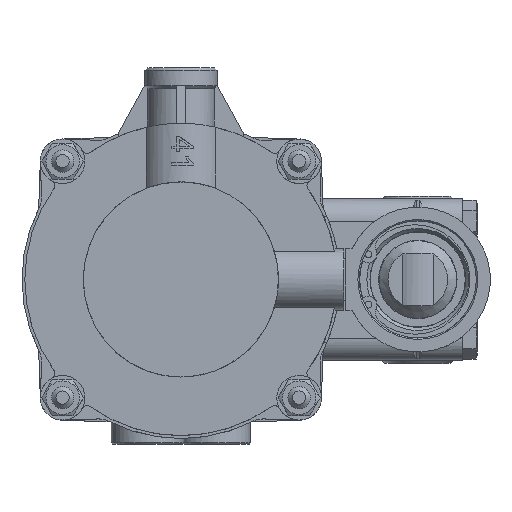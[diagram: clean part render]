
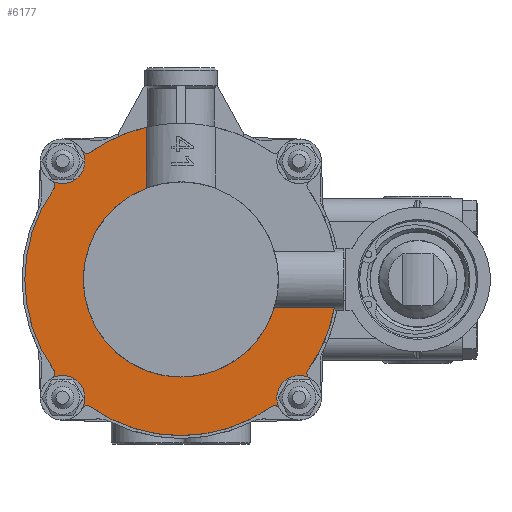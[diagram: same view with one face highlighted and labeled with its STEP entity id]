
A CAD part, top view. The second image highlights one B-rep face of the part: STEP entity #6177.
In plain terms, the highlighted planar face has unit normal (0, 0, 1).
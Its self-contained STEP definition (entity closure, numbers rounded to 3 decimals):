
#4979=FACE_OUTER_BOUND('',#12112,.T.);
#6177=ADVANCED_FACE('',(#4979),#7158,.T.);
#7158=PLANE('',#26941);
#8353=LINE('',#45593,#9732);
#8451=LINE('',#46138,#9830);
#9732=VECTOR('',#31505,1.);
#9830=VECTOR('',#32001,1.);
#12112=EDGE_LOOP('',(#17456,#17457,#17458,#17459,#17460,#17461,#17462,#17463,
#17464,#17465,#17466,#17467,#17468,#17469,#17470,#17471,#17472,#17473));
#17456=ORIENTED_EDGE('',*,*,#23724,.T.);
#17457=ORIENTED_EDGE('',*,*,#23704,.T.);
#17458=ORIENTED_EDGE('',*,*,#23599,.T.);
#17459=ORIENTED_EDGE('',*,*,#23624,.T.);
#17460=ORIENTED_EDGE('',*,*,#23603,.F.);
#17461=ORIENTED_EDGE('',*,*,#23596,.T.);
#17462=ORIENTED_EDGE('',*,*,#23710,.T.);
#17463=ORIENTED_EDGE('',*,*,#23590,.T.);
#17464=ORIENTED_EDGE('',*,*,#23661,.T.);
#17465=ORIENTED_EDGE('',*,*,#23584,.T.);
#17466=ORIENTED_EDGE('',*,*,#23697,.T.);
#17467=ORIENTED_EDGE('',*,*,#23582,.T.);
#17468=ORIENTED_EDGE('',*,*,#23611,.F.);
#17469=ORIENTED_EDGE('',*,*,#23650,.T.);
#17470=ORIENTED_EDGE('',*,*,#23575,.T.);
#17471=ORIENTED_EDGE('',*,*,#23698,.T.);
#17472=ORIENTED_EDGE('',*,*,#23492,.T.);
#17473=ORIENTED_EDGE('',*,*,#23720,.F.);
#20626=VERTEX_POINT('',#45592);
#20627=VERTEX_POINT('',#45594);
#20688=VERTEX_POINT('',#45791);
#20689=VERTEX_POINT('',#45792);
#20695=VERTEX_POINT('',#45805);
#20696=VERTEX_POINT('',#45807);
#20697=VERTEX_POINT('',#45811);
#20698=VERTEX_POINT('',#45812);
#20703=VERTEX_POINT('',#45823);
#20704=VERTEX_POINT('',#45825);
#20706=VERTEX_POINT('',#45830);
#20709=VERTEX_POINT('',#45836);
#20712=VERTEX_POINT('',#45843);
#20713=VERTEX_POINT('',#45845);
#20714=VERTEX_POINT('',#45849);
#20716=VERTEX_POINT('',#45864);
#20753=VERTEX_POINT('',#46063);
#20755=VERTEX_POINT('',#46122);
#23492=EDGE_CURVE('',#20627,#20626,#8353,.T.);
#23575=EDGE_CURVE('',#20688,#20689,#24955,.T.);
#23582=EDGE_CURVE('',#20696,#20695,#24959,.T.);
#23584=EDGE_CURVE('',#20697,#20698,#24960,.T.);
#23590=EDGE_CURVE('',#20704,#20703,#24963,.T.);
#23596=EDGE_CURVE('',#20706,#20709,#24966,.T.);
#23599=EDGE_CURVE('',#20713,#20712,#24968,.T.);
#23603=EDGE_CURVE('',#20706,#20714,#24971,.T.);
#23611=EDGE_CURVE('',#20716,#20695,#24979,.T.);
#23624=EDGE_CURVE('',#20712,#20714,#24982,.T.);
#23650=EDGE_CURVE('',#20716,#20688,#24993,.T.);
#23661=EDGE_CURVE('',#20703,#20697,#24996,.T.);
#23697=EDGE_CURVE('',#20698,#20696,#25023,.T.);
#23698=EDGE_CURVE('',#20689,#20627,#25024,.T.);
#23704=EDGE_CURVE('',#20753,#20713,#25030,.T.);
#23710=EDGE_CURVE('',#20709,#20704,#25033,.T.);
#23720=EDGE_CURVE('',#20755,#20626,#25041,.T.);
#23724=EDGE_CURVE('',#20755,#20753,#8451,.T.);
#24955=CIRCLE('',#26790,2.);
#24959=CIRCLE('',#26795,2.);
#24960=CIRCLE('',#26797,2.);
#24963=CIRCLE('',#26801,2.);
#24966=CIRCLE('',#26805,2.);
#24968=CIRCLE('',#26808,2.);
#24971=CIRCLE('',#26813,8.);
#24979=CIRCLE('',#26828,8.);
#24982=CIRCLE('',#26836,8.);
#24993=CIRCLE('',#26855,8.);
#24996=CIRCLE('',#26863,8.);
#25023=CIRCLE('',#26904,56.);
#25024=CIRCLE('',#26906,56.);
#25030=CIRCLE('',#26915,56.);
#25033=CIRCLE('',#26919,56.);
#25041=CIRCLE('',#26938,35.);
#26790=AXIS2_PLACEMENT_3D('',#45790,#31653,#31654);
#26795=AXIS2_PLACEMENT_3D('',#45806,#31666,#31667);
#26797=AXIS2_PLACEMENT_3D('',#45810,#31671,#31672);
#26801=AXIS2_PLACEMENT_3D('',#45824,#31682,#31683);
#26805=AXIS2_PLACEMENT_3D('',#45837,#31693,#31694);
#26808=AXIS2_PLACEMENT_3D('',#45844,#31700,#31701);
#26813=AXIS2_PLACEMENT_3D('',#45852,#31711,#31712);
#26828=AXIS2_PLACEMENT_3D('',#45870,#31741,#31742);
#26836=AXIS2_PLACEMENT_3D('',#45902,#31765,#31766);
#26855=AXIS2_PLACEMENT_3D('',#45954,#31816,#31817);
#26863=AXIS2_PLACEMENT_3D('',#45979,#31839,#31840);
#26904=AXIS2_PLACEMENT_3D('',#46051,#31927,#31928);
#26906=AXIS2_PLACEMENT_3D('',#46053,#31931,#31932);
#26915=AXIS2_PLACEMENT_3D('',#46062,#31949,#31950);
#26919=AXIS2_PLACEMENT_3D('',#46090,#31957,#31958);
#26938=AXIS2_PLACEMENT_3D('',#46121,#31995,#31996);
#26941=AXIS2_PLACEMENT_3D('',#46139,#32002,#32003);
#31505=DIRECTION('',(-1.,0.,0.));
#31653=DIRECTION('',(0.,0.,-1.));
#31654=DIRECTION('',(1.,0.,0.));
#31666=DIRECTION('',(0.,0.,-1.));
#31667=DIRECTION('',(1.,0.,0.));
#31671=DIRECTION('',(0.,0.,-1.));
#31672=DIRECTION('',(1.,0.,0.));
#31682=DIRECTION('',(0.,0.,-1.));
#31683=DIRECTION('',(1.,0.,0.));
#31693=DIRECTION('',(0.,0.,-1.));
#31694=DIRECTION('',(1.,0.,0.));
#31700=DIRECTION('',(0.,0.,-1.));
#31701=DIRECTION('',(1.,0.,0.));
#31711=DIRECTION('',(0.,0.,1.));
#31712=DIRECTION('',(0.,1.,0.));
#31741=DIRECTION('',(0.,0.,1.));
#31742=DIRECTION('',(0.,-1.,0.));
#31765=DIRECTION('',(0.,0.,1.));
#31766=DIRECTION('',(1.,0.,0.));
#31816=DIRECTION('',(0.,0.,1.));
#31817=DIRECTION('',(1.,0.,0.));
#31839=DIRECTION('',(0.,0.,-1.));
#31840=DIRECTION('',(-1.,0.,0.));
#31927=DIRECTION('',(0.,0.,1.));
#31928=DIRECTION('',(1.,0.,0.));
#31931=DIRECTION('',(0.,0.,1.));
#31932=DIRECTION('',(1.,0.,0.));
#31949=DIRECTION('',(0.,0.,1.));
#31950=DIRECTION('',(1.,0.,0.));
#31957=DIRECTION('',(0.,0.,1.));
#31958=DIRECTION('',(1.,0.,0.));
#31995=DIRECTION('',(0.,0.,1.));
#31996=DIRECTION('',(1.,0.,0.));
#32001=DIRECTION('',(0.,1.,0.));
#32002=DIRECTION('',(0.,0.,1.));
#32003=DIRECTION('',(1.,0.,0.));
#45592=CARTESIAN_POINT('',(33.557,-9.945,93.8));
#45593=CARTESIAN_POINT('',(-747.,-9.945,93.8));
#45594=CARTESIAN_POINT('',(55.11,-9.945,93.8));
#45790=CARTESIAN_POINT('',(47.235,-33.658,93.8));
#45791=CARTESIAN_POINT('',(46.273,-35.412,93.8));
#45792=CARTESIAN_POINT('',(45.606,-32.498,93.8));
#45805=CARTESIAN_POINT('',(35.367,-46.196,93.8));
#45806=CARTESIAN_POINT('',(33.658,-47.235,93.8));
#45807=CARTESIAN_POINT('',(32.498,-45.606,93.8));
#45810=CARTESIAN_POINT('',(-33.658,-47.235,93.8));
#45811=CARTESIAN_POINT('',(-35.412,-46.273,93.8));
#45812=CARTESIAN_POINT('',(-32.498,-45.606,93.8));
#45823=CARTESIAN_POINT('',(-46.273,-35.412,93.8));
#45824=CARTESIAN_POINT('',(-47.235,-33.658,93.8));
#45825=CARTESIAN_POINT('',(-45.606,-32.498,93.8));
#45830=CARTESIAN_POINT('',(-46.196,35.367,93.8));
#45836=CARTESIAN_POINT('',(-45.606,32.498,93.8));
#45837=CARTESIAN_POINT('',(-47.235,33.658,93.8));
#45843=CARTESIAN_POINT('',(-35.412,46.273,93.8));
#45844=CARTESIAN_POINT('',(-33.658,47.235,93.8));
#45845=CARTESIAN_POINT('',(-32.498,45.606,93.8));
#45849=CARTESIAN_POINT('',(-50.426,42.425,93.8));
#45852=CARTESIAN_POINT('',(-42.426,42.424,93.8));
#45864=CARTESIAN_POINT('',(42.425,-50.426,93.8));
#45870=CARTESIAN_POINT('',(42.424,-42.426,93.8));
#45902=CARTESIAN_POINT('',(-42.426,42.426,93.8));
#45954=CARTESIAN_POINT('',(42.426,-42.426,93.8));
#45979=CARTESIAN_POINT('',(-42.426,-42.426,93.8));
#46051=CARTESIAN_POINT('',(0.,0.,93.8));
#46053=CARTESIAN_POINT('',(0.,0.,93.8));
#46062=CARTESIAN_POINT('',(0.,0.,93.8));
#46063=CARTESIAN_POINT('',(-12.359,54.619,93.8));
#46090=CARTESIAN_POINT('',(0.,0.,93.8));
#46121=CARTESIAN_POINT('',(0.,0.,93.8));
#46122=CARTESIAN_POINT('',(-12.359,32.745,93.8));
#46138=CARTESIAN_POINT('',(-12.359,-9.5,93.8));
#46139=CARTESIAN_POINT('',(0.,35.,93.8));
